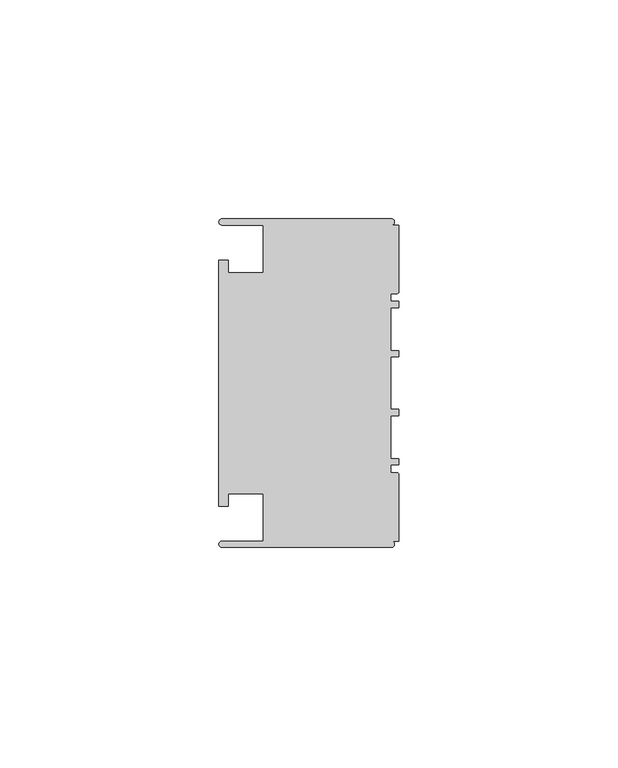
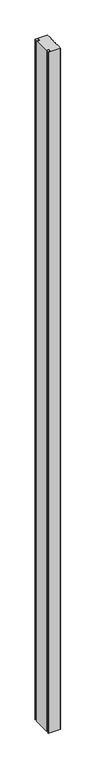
"""IFC4 building model written with IfcOpenShell, lengths in millimetres: member geometry, Прямоугольный импост : 3-AMG-2-Профиль 40Х75 Верх П."""

from ifc_helpers import new_model, si_unit, point, frame, frame_2d, origin, place, context, project, spatial, polyline, circle_curve, trimmed, segment, composite_curve, outline, extrude, source, transform, mapped, element, save


def member_a1fde92c(model_context):
    return source(origin(), model_context, "Body", "SweptSolid", [
        extrude(outline(composite_curve([segment(polyline([(-1.7, -37.5), (-40.4, -37.5)]), True, "CONTINUOUS"), segment(trimmed(circle_curve(frame_2d((-40.4, -36.8)), 0.7), [point((-40.4, -37.5))], [point((-40.4, -36.1))], False, "CARTESIAN"), True, "CONTINUOUS"), segment(polyline([(-40.4, -36.1), (-31.0, -36.1), (-31.0, -25.25), (-39.0, -25.25), (-39.0, -28.1), (-41.1, -28.1), (-41.1, 28.1), (-39.0, 28.1), (-39.0, 25.25), (-31.0, 25.25), (-31.0, 36.1), (-40.4, 36.1)]), True, "CONTINUOUS"), segment(trimmed(circle_curve(frame_2d((-40.4, 36.8)), 0.7), [point((-40.4, 36.1))], [point((-40.4, 37.5))], False, "CARTESIAN"), True, "CONTINUOUS"), segment(polyline([(-40.4, 37.5), (-1.7, 37.5)]), True, "CONTINUOUS"), segment(trimmed(circle_curve(frame_2d((-1.7, 36.8)), 0.7), [point((-1.7, 37.5))], [point((-1.7, 36.1))], False, "CARTESIAN"), True, "CONTINUOUS"), segment(polyline([(-1.7, 36.1), (0.0, 36.1), (0.0, 20.95)]), True, "CONTINUOUS"), segment(trimmed(circle_curve(frame_2d((-0.5, 20.95)), 0.5), [point((0.0, 20.95))], [point((-0.5, 20.45))], False, "CARTESIAN"), True, "CONTINUOUS"), segment(polyline([(-0.5, 20.45), (-1.8, 20.45), (-1.8, 18.65), (0.0, 18.65), (0.0, 17.25), (-1.8, 17.25), (-1.8, 7.4), (0.0, 7.4), (0.0, 6.0), (-1.8, 6.0), (-1.8, -6.0), (0.0, -6.0), (0.0, -7.4), (-1.8, -7.4), (-1.8, -17.25), (0.0, -17.25), (0.0, -18.65), (-1.8, -18.65), (-1.8, -20.45), (-0.5, -20.45)]), True, "CONTINUOUS"), segment(trimmed(circle_curve(frame_2d((-0.5, -20.95)), 0.5), [point((-0.5, -20.45))], [point((0.0, -20.95))], False, "CARTESIAN"), True, "CONTINUOUS"), segment(polyline([(0.0, -20.95), (0.0, -36.1), (-1.7, -36.1)]), True, "CONTINUOUS"), segment(trimmed(circle_curve(frame_2d((-1.7, -36.8)), 0.7), [point((-1.7, -36.1))], [point((-1.7, -37.5))], False, "CARTESIAN"), True, "CONTINUOUS")], self_intersect=False)), frame((0.0, 0.0, -2316.617384), z_axis=(0.0, 0.0, 1.0), x_axis=(1.0, 0.0, 0.0)), (0.0, 0.0, 1.0), 2316.617384),
    ])


if __name__ == "__main__":
    model = new_model("IFC4")
    model_context = context("Model", 3, world=origin())
    ifc_project = project(units=[si_unit("LENGTHUNIT", "METRE", prefix="MILLI")], contexts=[model_context])
    site = spatial("IfcSite", under=ifc_project)
    building = spatial("IfcBuilding", under=site)
    placement = place(None, origin())
    member_shape = member_a1fde92c(model_context)
    element("IfcMember", 1, ObjectType="Прямоугольный импост : 3-AMG-2-Профиль 40Х75 Верх П", at=placement, inside=building, context=model_context, shape_type="MappedRepresentation", body=[
        mapped(member_shape, transform((0.0, 0.0, 0.0), x_axis=(1.0, 0.0, 0.0), y_axis=(0.0, 1.0, 0.0), z_axis=(0.0, 0.0, 1.0))),
    ])
    save(model, "model.ifc")
